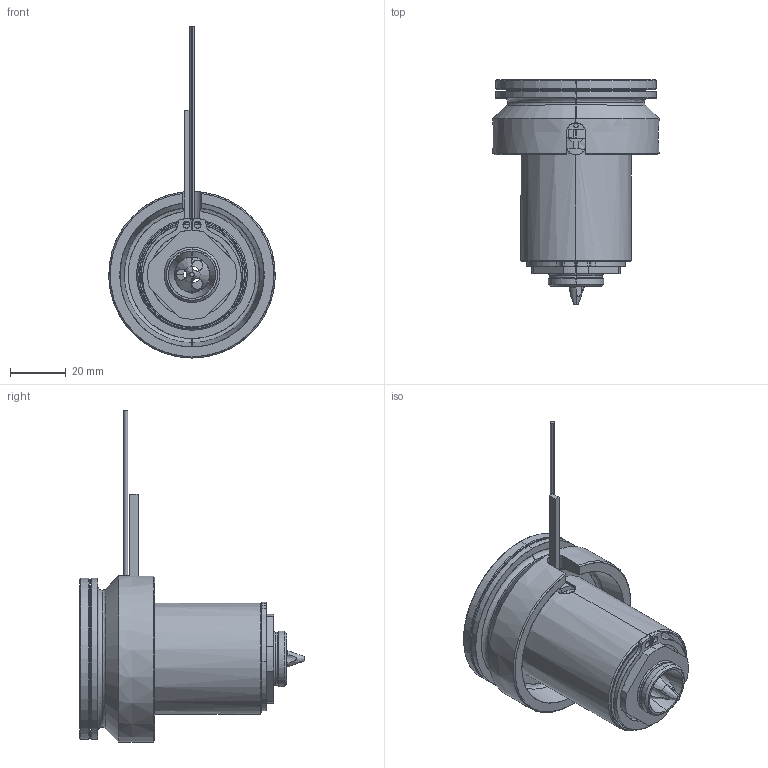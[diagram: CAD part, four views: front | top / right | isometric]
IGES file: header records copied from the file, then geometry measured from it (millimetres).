
Start section: SolidWorks IGES file using analytic representation for surfaces
Global section: file name: C:\Documents and Settings\ws-20\Desktop\TEM\UGEP6002-S-A-0 [Øf-1.6 ØC-15].IGS; native system: SolidWorks 2012; preprocessor: SolidWorks 2012; author: ws-20; date: 120427.092444; units: millimetre
Bounding box: 60 x 80.8 x 119.65 mm (x, y, z)
Surface area: 39367.6 mm2 (no closed solid volume)
Topology: 0 solids, 0 shells, 135 faces, 2744 edges, 2744 vertices
Faces by surface type: revolution 86, bspline 49
